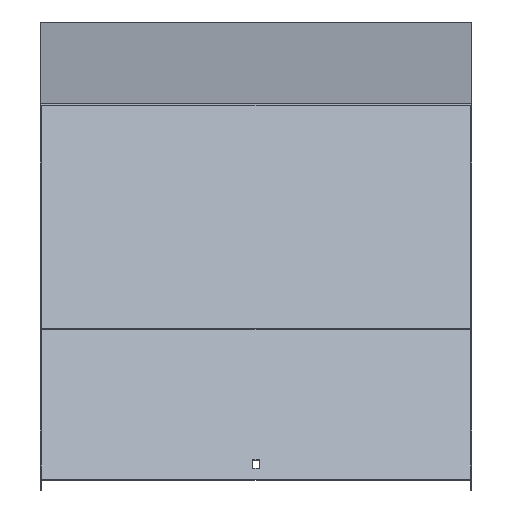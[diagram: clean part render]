
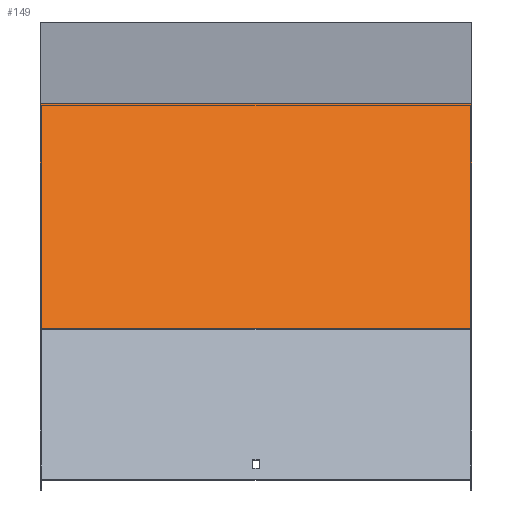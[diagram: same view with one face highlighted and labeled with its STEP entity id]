
A CAD part, top view. The second image highlights one B-rep face of the part: STEP entity #149.
In plain terms, the highlighted planar face has unit normal (0, 0.707, 0.707).
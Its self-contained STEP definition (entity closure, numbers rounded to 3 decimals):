
#17 = DIRECTION ( 'NONE',  ( 0., 0.707, -0.707 ) ) ;
#24 = VERTEX_POINT ( 'NONE', #690 ) ;
#39 = EDGE_CURVE ( 'NONE', #128, #243, #62, .T. ) ;
#42 = CARTESIAN_POINT ( 'NONE',  ( 201.5, -266.872, 659.51 ) ) ;
#62 = LINE ( 'NONE', #525, #176 ) ;
#87 = ORIENTED_EDGE ( 'NONE', *, *, #426, .T. ) ;
#89 = PLANE ( 'NONE',  #398 ) ;
#108 = CARTESIAN_POINT ( 'NONE',  ( 201.5, -60.657, 453.295 ) ) ;
#117 = CARTESIAN_POINT ( 'NONE',  ( -201.5, -60.657, 453.295 ) ) ;
#128 = VERTEX_POINT ( 'NONE', #391 ) ;
#149 = ADVANCED_FACE ( 'NONE', ( #704 ), #89, .F. ) ;
#173 = EDGE_CURVE ( 'NONE', #128, #466, #490, .T. ) ;
#176 = VECTOR ( 'NONE', #281, 1000. ) ;
#177 = EDGE_LOOP ( 'NONE', ( #87, #649, #827, #204 ) ) ;
#192 = LINE ( 'NONE', #117, #459 ) ;
#204 = ORIENTED_EDGE ( 'NONE', *, *, #39, .T. ) ;
#206 = CARTESIAN_POINT ( 'NONE',  ( -201.5, -56.867, 449.505 ) ) ;
#240 = VECTOR ( 'NONE', #645, 1000. ) ;
#243 = VERTEX_POINT ( 'NONE', #206 ) ;
#281 = DIRECTION ( 'NONE',  ( -1., 0., 0. ) ) ;
#363 = LINE ( 'NONE', #42, #461 ) ;
#391 = CARTESIAN_POINT ( 'NONE',  ( 201.5, -56.867, 449.505 ) ) ;
#397 = CARTESIAN_POINT ( 'NONE',  ( 201.5, -60.657, 453.295 ) ) ;
#398 = AXIS2_PLACEMENT_3D ( 'NONE', #397, #711, #17 ) ;
#426 = EDGE_CURVE ( 'NONE', #243, #24, #192, .T. ) ;
#459 = VECTOR ( 'NONE', #584, 1000. ) ;
#461 = VECTOR ( 'NONE', #661, 1000. ) ;
#466 = VERTEX_POINT ( 'NONE', #738 ) ;
#485 = EDGE_CURVE ( 'NONE', #466, #24, #363, .T. ) ;
#490 = LINE ( 'NONE', #108, #240 ) ;
#525 = CARTESIAN_POINT ( 'NONE',  ( 201.5, -56.867, 449.505 ) ) ;
#584 = DIRECTION ( 'NONE',  ( 0., -0.707, 0.707 ) ) ;
#645 = DIRECTION ( 'NONE',  ( 0., -0.707, 0.707 ) ) ;
#649 = ORIENTED_EDGE ( 'NONE', *, *, #485, .F. ) ;
#661 = DIRECTION ( 'NONE',  ( -1., 0., 0. ) ) ;
#690 = CARTESIAN_POINT ( 'NONE',  ( -201.5, -266.872, 659.51 ) ) ;
#704 = FACE_OUTER_BOUND ( 'NONE', #177, .T. ) ;
#711 = DIRECTION ( 'NONE',  ( 0., -0.707, -0.707 ) ) ;
#738 = CARTESIAN_POINT ( 'NONE',  ( 201.5, -266.872, 659.51 ) ) ;
#827 = ORIENTED_EDGE ( 'NONE', *, *, #173, .F. ) ;
